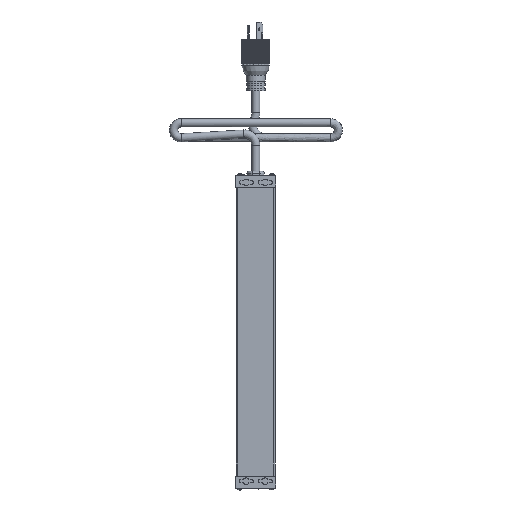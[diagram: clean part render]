
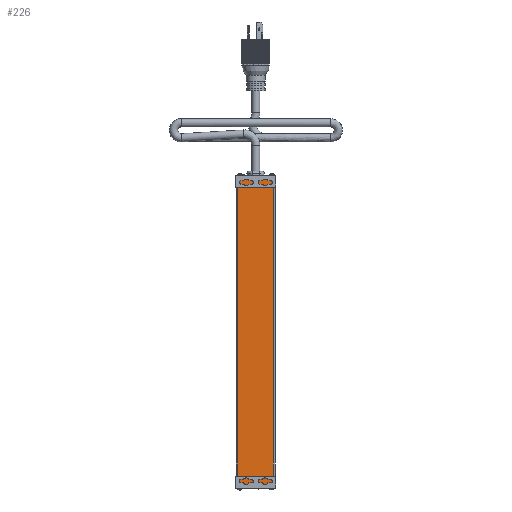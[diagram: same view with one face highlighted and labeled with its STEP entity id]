
A CAD part, front view. The second image highlights one B-rep face of the part: STEP entity #226.
In plain terms, the highlighted planar face has unit normal (0, -1, 0).
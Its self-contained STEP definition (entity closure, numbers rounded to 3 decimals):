
#187=CARTESIAN_POINT('',(0.0,0.0,0.0));
#188=DIRECTION('',(0.0,-1.0,0.0));
#189=DIRECTION('',(0.0,0.0,-1.0));
#190=AXIS2_PLACEMENT_3D('',#187,#188,#189);
#191=PLANE('',#190);
#192=CARTESIAN_POINT('',(23.8,0.,410.82));
#193=VERTEX_POINT('',#192);
#194=CARTESIAN_POINT('',(-23.8,0.,410.82));
#195=VERTEX_POINT('',#194);
#196=CARTESIAN_POINT('',(23.8,0.,410.82));
#197=DIRECTION('',(-1.0,0.0,0.0));
#198=VECTOR('',#197,47.6);
#199=LINE('',#196,#198);
#200=EDGE_CURVE('',#193,#195,#199,.T.);
#201=ORIENTED_EDGE('',*,*,#200,.T.);
#202=CARTESIAN_POINT('',(-23.8,0.,0.0));
#203=VERTEX_POINT('',#202);
#204=CARTESIAN_POINT('',(-23.8,0.,0.0));
#205=DIRECTION('',(0.0,0.0,1.0));
#206=VECTOR('',#205,410.82);
#207=LINE('',#204,#206);
#208=EDGE_CURVE('',#203,#195,#207,.T.);
#209=ORIENTED_EDGE('',*,*,#208,.F.);
#210=CARTESIAN_POINT('',(23.8,0.,0.0));
#211=VERTEX_POINT('',#210);
#212=CARTESIAN_POINT('',(-23.8,0.,0.0));
#213=DIRECTION('',(1.0,0.0,0.0));
#214=VECTOR('',#213,47.6);
#215=LINE('',#212,#214);
#216=EDGE_CURVE('',#203,#211,#215,.T.);
#217=ORIENTED_EDGE('',*,*,#216,.T.);
#218=CARTESIAN_POINT('',(23.8,0.,0.0));
#219=DIRECTION('',(0.0,0.0,1.0));
#220=VECTOR('',#219,410.82);
#221=LINE('',#218,#220);
#222=EDGE_CURVE('',#211,#193,#221,.T.);
#223=ORIENTED_EDGE('',*,*,#222,.T.);
#224=EDGE_LOOP('',(#201,#209,#217,#223));
#225=FACE_OUTER_BOUND('',#224,.T.);
#226=ADVANCED_FACE('',(#225),#191,.T.);
